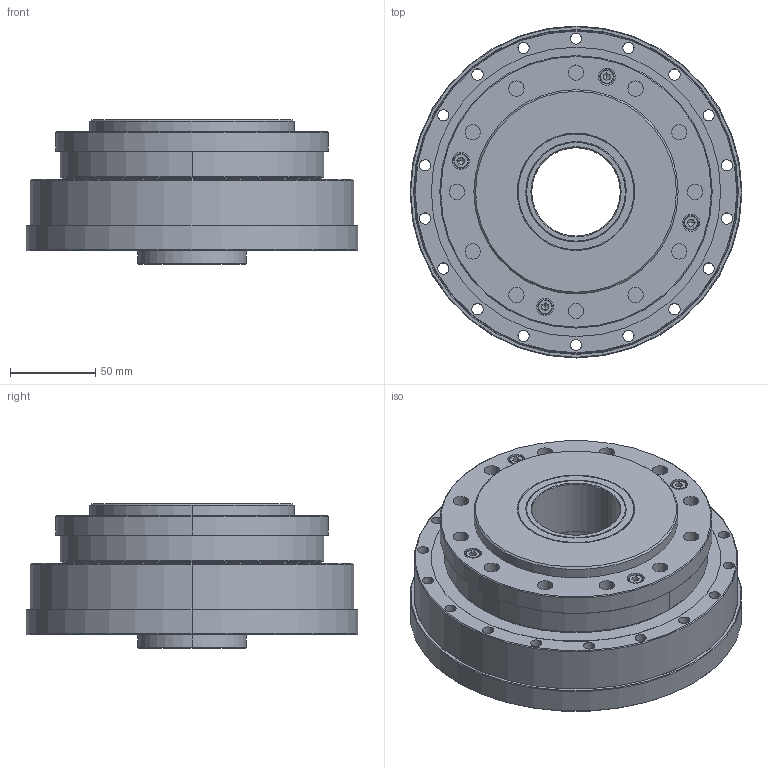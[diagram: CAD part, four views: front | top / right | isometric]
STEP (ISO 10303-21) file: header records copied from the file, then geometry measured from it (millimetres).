
FILE_DESCRIPTION (( 'STEP AP203' ), '1' );
FILE_NAME ('BHS-45-XXX-U-¢ó.STEP', '2019-01-15T05:56:07', ( 'User' ), ( 'China' ), 'SwSTEP 2.0', 'SolidWorks 2015', '' );
FILE_SCHEMA (( 'CONFIG_CONTROL_DESIGN' ));
Length unit declared in the file: millimetre
Products named in the file (1): BHS-45-XXX-U-ｋ
Bounding box: 195 x 195 x 85 mm (x, y, z)
Surface area: 143236.5 mm2 (no closed solid volume)
Topology: 0 solids, 17 shells, 338 faces, 922 edges, 590 vertices
Faces by surface type: cylinder 178, plane 94, cone 54, torus 12
Entity records: 10771 total; most frequent: DIRECTION 2070, CARTESIAN_POINT 1843, ORIENTED_EDGE 1554, EDGE_CURVE 914, AXIS2_PLACEMENT_3D 817, VERTEX_POINT 590, CIRCLE 478, VECTOR 436
